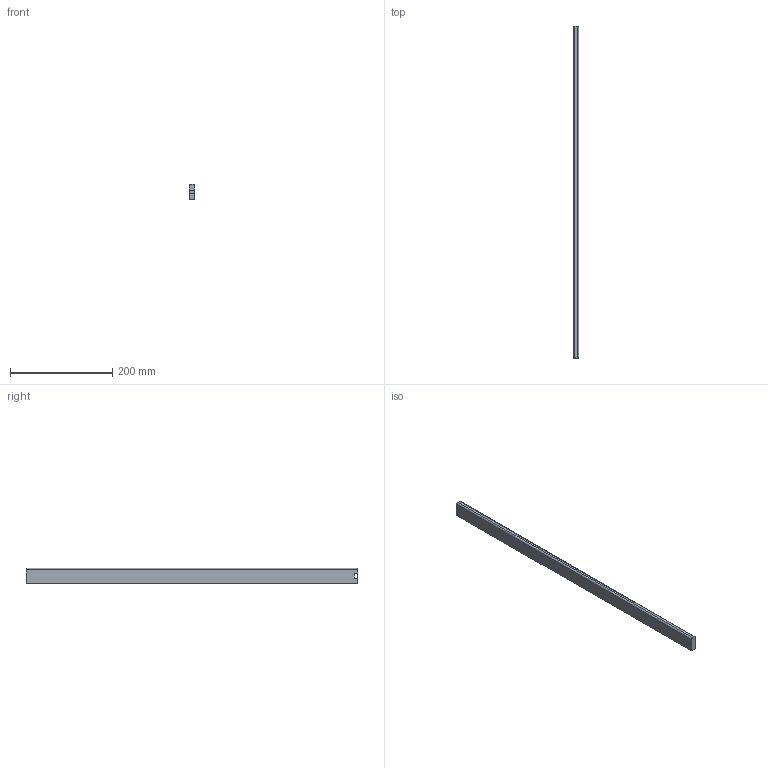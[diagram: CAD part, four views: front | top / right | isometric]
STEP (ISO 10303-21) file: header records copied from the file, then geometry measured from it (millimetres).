
FILE_DESCRIPTION (( 'STEP AP214' ), '1' );
FILE_NAME ('_Seitenreling_S610000200_RL649.step', '2010-09-06T14:51:23', ( 'grass' ), ( '' ), 'SwSTEP 2.0', 'SolidWorks 2010', '' );
FILE_SCHEMA (( 'AUTOMOTIVE_DESIGN' ));
Length unit declared in the file: millimetre
Products named in the file (1): _Seitenreling_S610000200_RL649
Bounding box: 10.5 x 649 x 30 mm (x, y, z)
Volume: 201459.4 mm3; surface area: 51700.6 mm2
Topology: 1 solids, 1 shells, 12 faces, 30 edges, 20 vertices
Faces by surface type: plane 8, cylinder 4
Entity records: 400 total; most frequent: DIRECTION 64, CARTESIAN_POINT 63, ORIENTED_EDGE 60, EDGE_CURVE 30, LINE 22, VECTOR 22, AXIS2_PLACEMENT_3D 21, VERTEX_POINT 20
